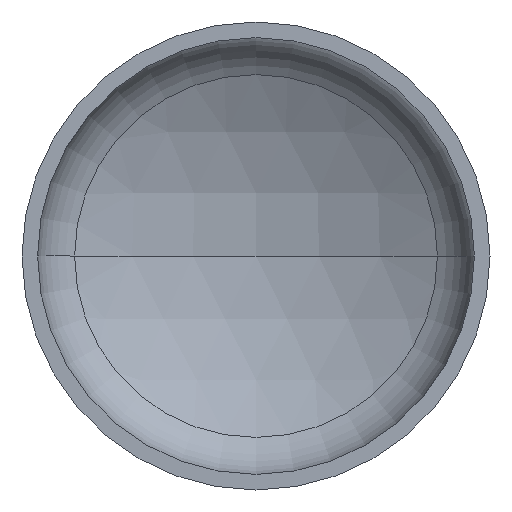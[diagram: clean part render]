
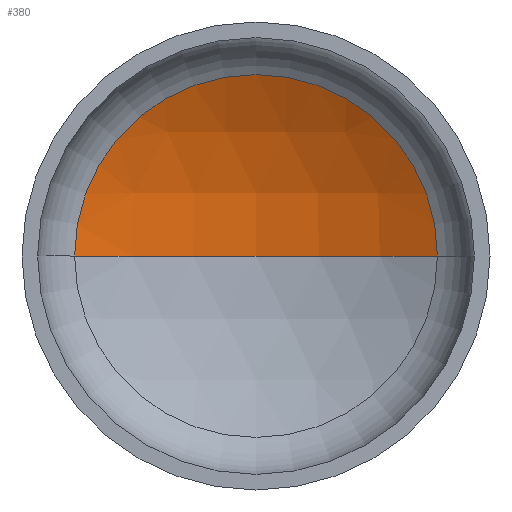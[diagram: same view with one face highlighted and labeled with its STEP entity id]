
A CAD part, front view. The second image highlights one B-rep face of the part: STEP entity #380.
In plain terms, the highlighted spherical face has radius 1200 mm.
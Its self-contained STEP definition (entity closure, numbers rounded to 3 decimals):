
#3 = AXIS2_PLACEMENT_3D ( 'NONE', #66, #90, #195 ) ;
#11 = AXIS2_PLACEMENT_3D ( 'NONE', #250, #118, #183 ) ;
#13 = AXIS2_PLACEMENT_3D ( 'NONE', #111, #113, #154 ) ;
#18 = AXIS2_PLACEMENT_3D ( 'NONE', #95, #97, #109 ) ;
#66 = CARTESIAN_POINT ( 'NONE',  ( 0., -698.528, 0. ) ) ;
#68 = CIRCLE ( 'NONE', #11, 1200. ) ;
#76 = ORIENTED_EDGE ( 'NONE', *, *, #327, .F. ) ;
#89 = EDGE_LOOP ( 'NONE', ( #76, #157, #173 ) ) ;
#90 = DIRECTION ( 'NONE',  ( 0., 0., -1. ) ) ;
#94 = CARTESIAN_POINT ( 'NONE',  ( -581.443, 351.197, 0. ) ) ;
#95 = CARTESIAN_POINT ( 'NONE',  ( 0., -698.528, 0. ) ) ;
#97 = DIRECTION ( 'NONE',  ( 0., 0., 1. ) ) ;
#109 = DIRECTION ( 'NONE',  ( 1., 0., 0. ) ) ;
#111 = CARTESIAN_POINT ( 'NONE',  ( 0., 351.197, 0. ) ) ;
#113 = DIRECTION ( 'NONE',  ( 0., -1., 0. ) ) ;
#118 = DIRECTION ( 'NONE',  ( 0., 0., -1. ) ) ;
#148 = CARTESIAN_POINT ( 'NONE',  ( 0., 501.472, 0. ) ) ;
#154 = DIRECTION ( 'NONE',  ( 1., 0., 0. ) ) ;
#157 = ORIENTED_EDGE ( 'NONE', *, *, #342, .T. ) ;
#161 = VERTEX_POINT ( 'NONE', #383 ) ;
#173 = ORIENTED_EDGE ( 'NONE', *, *, #340, .T. ) ;
#183 = DIRECTION ( 'NONE',  ( -1., 0., 0. ) ) ;
#195 = DIRECTION ( 'NONE',  ( -1., 0., 0. ) ) ;
#200 = VERTEX_POINT ( 'NONE', #94 ) ;
#202 = SPHERICAL_SURFACE ( 'NONE', #3, 1200. ) ;
#210 = VERTEX_POINT ( 'NONE', #148 ) ;
#224 = CIRCLE ( 'NONE', #13, 581.443 ) ;
#250 = CARTESIAN_POINT ( 'NONE',  ( 0., -698.528, 0. ) ) ;
#282 = FACE_OUTER_BOUND ( 'NONE', #89, .T. ) ;
#327 = EDGE_CURVE ( 'NONE', #210, #200, #377, .T. ) ;
#340 = EDGE_CURVE ( 'NONE', #161, #200, #224, .T. ) ;
#342 = EDGE_CURVE ( 'NONE', #210, #161, #68, .T. ) ;
#377 = CIRCLE ( 'NONE', #18, 1200. ) ;
#380 = ADVANCED_FACE ( 'NONE', ( #282 ), #202, .F. ) ;
#383 = CARTESIAN_POINT ( 'NONE',  ( 581.443, 351.197, 0. ) ) ;
